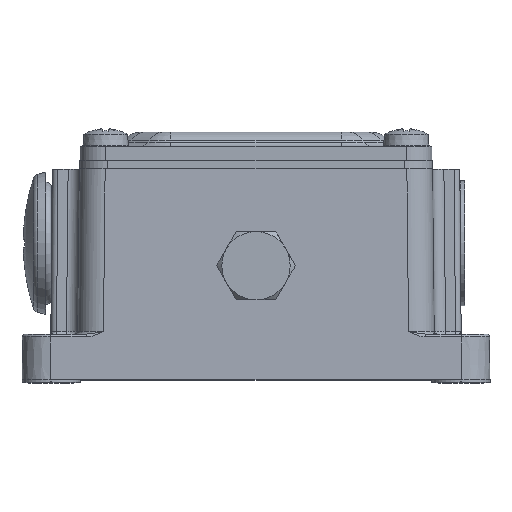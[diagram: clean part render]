
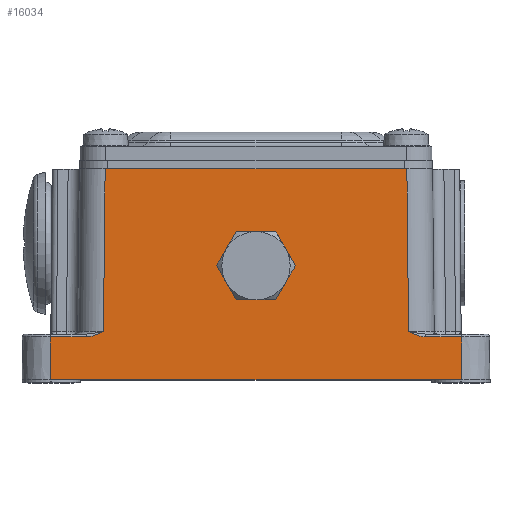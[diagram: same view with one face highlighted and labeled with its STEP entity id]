
A CAD part, top view. The second image highlights one B-rep face of the part: STEP entity #16034.
In plain terms, the highlighted planar face has unit normal (0, 0.003, 1).
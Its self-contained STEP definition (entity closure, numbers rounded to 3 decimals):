
#2199=DIRECTION('',(1.,0.,0.));
#2200=VECTOR('',#2199,71.8);
#2201=CARTESIAN_POINT('',(-35.9,0.,56.));
#2202=LINE('',#2201,#2200);
#4509=DIRECTION('',(1.,0.,0.));
#4510=VECTOR('',#4509,6.309);
#4511=CARTESIAN_POINT('',(-36.1,7.501,55.98));
#4512=LINE('',#4511,#4510);
#4524=CARTESIAN_POINT('',(-29.791,7.501,55.98));
#4525=CARTESIAN_POINT('',(-29.67,7.501,55.98));
#4526=CARTESIAN_POINT('',(-29.42,7.517,55.98));
#4527=CARTESIAN_POINT('',(-29.014,7.588,55.979));
#4528=CARTESIAN_POINT('',(-28.596,7.704,55.979));
#4529=CARTESIAN_POINT('',(-28.2,7.846,55.979));
#4530=CARTESIAN_POINT('',(-27.849,7.992,55.978));
#4531=CARTESIAN_POINT('',(-27.533,8.136,55.978));
#4532=CARTESIAN_POINT('',(-27.252,8.271,55.978));
#4533=CARTESIAN_POINT('',(-27.004,8.394,55.977));
#4534=CARTESIAN_POINT('',(-26.861,8.466,55.977));
#4535=CARTESIAN_POINT('',(-26.795,8.499,55.977));
#4564=CARTESIAN_POINT('',(0.,14.55,55.961));
#4565=CARTESIAN_POINT('',(-0.642,14.55,
55.961));
#4566=CARTESIAN_POINT('',(-2.03,14.782,55.96));
#4567=CARTESIAN_POINT('',(-3.969,16.032,55.957));
#4568=CARTESIAN_POINT('',(-5.009,17.644,55.952));
#4569=CARTESIAN_POINT('',(-5.393,19.016,55.949));
#4570=CARTESIAN_POINT('',(-5.479,20.,55.946));
#4571=CARTESIAN_POINT('',(-5.393,20.985,55.943));
#4572=CARTESIAN_POINT('',(-5.009,22.356,55.94));
#4573=CARTESIAN_POINT('',(-3.969,23.968,55.935));
#4574=CARTESIAN_POINT('',(-2.03,25.218,55.932));
#4575=CARTESIAN_POINT('',(-0.642,25.451,
55.931));
#4576=CARTESIAN_POINT('',(0.,25.451,55.931));
#4581=CARTESIAN_POINT('',(0.,25.451,55.931));
#4582=CARTESIAN_POINT('',(0.642,25.451,55.931));
#4583=CARTESIAN_POINT('',(2.03,25.218,55.932));
#4584=CARTESIAN_POINT('',(3.969,23.968,55.935));
#4585=CARTESIAN_POINT('',(5.009,22.356,55.94));
#4586=CARTESIAN_POINT('',(5.393,20.985,55.943));
#4587=CARTESIAN_POINT('',(5.479,20.,55.946));
#4588=CARTESIAN_POINT('',(5.393,19.016,55.949));
#4589=CARTESIAN_POINT('',(5.009,17.644,55.952));
#4590=CARTESIAN_POINT('',(3.969,16.032,55.957));
#4591=CARTESIAN_POINT('',(2.03,14.782,55.96));
#4592=CARTESIAN_POINT('',(0.642,14.55,55.961));
#4593=CARTESIAN_POINT('',(0.,14.55,55.961));
#4598=DIRECTION('',(1.,0.,0.));
#4599=VECTOR('',#4598,53.);
#4600=CARTESIAN_POINT('',(-26.5,37.,55.9));
#4601=LINE('',#4600,#4599);
#4605=DIRECTION('',(1.,0.,0.));
#4606=VECTOR('',#4605,0.2);
#4607=CARTESIAN_POINT('',(35.9,0.,56.));
#4608=LINE('',#4607,#4606);
#4612=DIRECTION('',(1.,0.,0.));
#4613=VECTOR('',#4612,0.2);
#4614=CARTESIAN_POINT('',(-36.1,0.,56.));
#4615=LINE('',#4614,#4613);
#8333=DIRECTION('',(0.01,1.,-0.003));
#8334=VECTOR('',#8333,28.503);
#8335=CARTESIAN_POINT('',(-26.795,8.499,55.977));
#8336=LINE('',#8335,#8334);
#8417=DIRECTION('',(0.01,-1.,0.003));
#8418=VECTOR('',#8417,28.503);
#8419=CARTESIAN_POINT('',(26.5,37.,55.9));
#8420=LINE('',#8419,#8418);
#8480=CARTESIAN_POINT('',(26.795,8.499,55.977));
#8496=CARTESIAN_POINT('',(26.795,8.499,55.977));
#8497=CARTESIAN_POINT('',(26.869,8.461,55.977));
#8498=CARTESIAN_POINT('',(27.024,8.384,55.977));
#8499=CARTESIAN_POINT('',(27.277,8.259,55.978));
#8500=CARTESIAN_POINT('',(27.555,8.126,55.978));
#8501=CARTESIAN_POINT('',(27.861,7.987,55.978));
#8502=CARTESIAN_POINT('',(28.199,7.847,55.979));
#8503=CARTESIAN_POINT('',(28.581,7.709,55.979));
#8504=CARTESIAN_POINT('',(28.997,7.592,55.979));
#8505=CARTESIAN_POINT('',(29.416,7.517,55.98));
#8506=CARTESIAN_POINT('',(29.669,7.501,55.98));
#8507=CARTESIAN_POINT('',(29.791,7.501,55.98));
#8519=DIRECTION('',(1.,0.,0.));
#8520=VECTOR('',#8519,6.309);
#8521=CARTESIAN_POINT('',(29.791,7.501,55.98));
#8522=LINE('',#8521,#8520);
#8743=DIRECTION('',(0.,1.,-0.003));
#8744=VECTOR('',#8743,7.501);
#8745=CARTESIAN_POINT('',(36.1,0.,56.));
#8746=LINE('',#8745,#8744);
#9535=DIRECTION('',(0.,1.,-0.003));
#9536=VECTOR('',#9535,7.501);
#9537=CARTESIAN_POINT('',(-36.1,0.,56.));
#9538=LINE('',#9537,#9536);
#11005=CARTESIAN_POINT('',(-36.1,0.,56.));
#11006=VERTEX_POINT('',#11005);
#11007=CARTESIAN_POINT('',(-35.9,0.,56.));
#11008=VERTEX_POINT('',#11007);
#11029=CARTESIAN_POINT('',(35.9,0.,56.));
#11030=VERTEX_POINT('',#11029);
#11031=CARTESIAN_POINT('',(36.1,0.,56.));
#11032=VERTEX_POINT('',#11031);
#11113=CARTESIAN_POINT('',(-26.5,37.,55.9));
#11114=CARTESIAN_POINT('',(26.5,37.,55.9));
#11115=VERTEX_POINT('',#11113);
#11116=VERTEX_POINT('',#11114);
#11453=VERTEX_POINT('',#4564);
#11454=VERTEX_POINT('',#4576);
#11711=CARTESIAN_POINT('',(-36.1,7.501,55.98));
#11712=CARTESIAN_POINT('',(-29.791,7.501,
55.98));
#11713=VERTEX_POINT('',#11711);
#11714=VERTEX_POINT('',#11712);
#11768=CARTESIAN_POINT('',(36.1,7.501,55.98));
#11769=VERTEX_POINT('',#11768);
#11772=CARTESIAN_POINT('',(29.791,7.501,55.98));
#11773=VERTEX_POINT('',#11772);
#11774=VERTEX_POINT('',#8480);
#11777=CARTESIAN_POINT('',(-26.795,8.499,
55.977));
#11778=VERTEX_POINT('',#11777);
#16001=CARTESIAN_POINT('',(37.659,0.,56.));
#16002=DIRECTION('',(0.,-0.003,-1.));
#16003=DIRECTION('',(0.,1.,-0.003));
#16004=AXIS2_PLACEMENT_3D('',#16001,#16002,#16003);
#16005=PLANE('',#16004);
#16006=ORIENTED_EDGE('',*,*,#15934,.T.);
#16007=ORIENTED_EDGE('',*,*,#15993,.T.);
#16009=ORIENTED_EDGE('',*,*,#16008,.T.);
#16010=ORIENTED_EDGE('',*,*,#12396,.T.);
#16012=ORIENTED_EDGE('',*,*,#16011,.T.);
#16014=ORIENTED_EDGE('',*,*,#16013,.T.);
#16016=ORIENTED_EDGE('',*,*,#16015,.T.);
#16018=ORIENTED_EDGE('',*,*,#16017,.F.);
#16020=ORIENTED_EDGE('',*,*,#16019,.F.);
#16021=ORIENTED_EDGE('',*,*,#13499,.F.);
#16023=ORIENTED_EDGE('',*,*,#16022,.F.);
#16025=ORIENTED_EDGE('',*,*,#16024,.T.);
#16026=EDGE_LOOP('',(#16006,#16007,#16009,#16010,#16012,#16014,#16016,#16018,
#16020,#16021,#16023,#16025));
#16027=FACE_OUTER_BOUND('',#16026,.F.);
#16029=ORIENTED_EDGE('',*,*,#16028,.F.);
#16031=ORIENTED_EDGE('',*,*,#16030,.F.);
#16032=EDGE_LOOP('',(#16029,#16031));
#16033=FACE_BOUND('',#16032,.F.);
#16034=ADVANCED_FACE('',(#16027,#16033),#16005,.F.);
#4536=B_SPLINE_CURVE_WITH_KNOTS('',3,(#4524,#4525,#4526,#4527,#4528,#4529,#4530,
#4531,#4532,#4533,#4534,#4535),.UNSPECIFIED.,.F.,.F.,(4,1,1,1,1,1,1,1,1,4),
(0.,0.111,0.222,0.333,0.444,
0.556,0.667,0.778,0.889,1.),
.UNSPECIFIED.);
#4577=B_SPLINE_CURVE_WITH_KNOTS('',3,(#4564,#4565,#4566,#4567,#4568,#4569,#4570,
#4571,#4572,#4573,#4574,#4575,#4576),.UNSPECIFIED.,.F.,.F.,(4,1,1,1,1,1,1,1,1,1,
4),(0.,0.125,0.25,0.375,0.438,0.5,0.563,0.625,0.75,0.875,
1.),.UNSPECIFIED.);
#4594=B_SPLINE_CURVE_WITH_KNOTS('',3,(#4581,#4582,#4583,#4584,#4585,#4586,#4587,
#4588,#4589,#4590,#4591,#4592,#4593),.UNSPECIFIED.,.F.,.F.,(4,1,1,1,1,1,1,1,1,1,
4),(0.,0.125,0.25,0.375,0.438,0.5,0.563,0.625,0.75,0.875,
1.),.UNSPECIFIED.);
#8508=B_SPLINE_CURVE_WITH_KNOTS('',3,(#8496,#8497,#8498,#8499,#8500,#8501,#8502,
#8503,#8504,#8505,#8506,#8507),.UNSPECIFIED.,.F.,.F.,(4,1,1,1,1,1,1,1,1,4),
(0.,0.111,0.222,0.333,0.444,
0.556,0.667,0.778,0.889,1.),
.UNSPECIFIED.);
#12396=EDGE_CURVE('',#11115,#11116,#4601,.T.);
#13499=EDGE_CURVE('',#11008,#11030,#2202,.T.);
#15934=EDGE_CURVE('',#11713,#11714,#4512,.T.);
#15993=EDGE_CURVE('',#11714,#11778,#4536,.T.);
#16008=EDGE_CURVE('',#11778,#11115,#8336,.T.);
#16011=EDGE_CURVE('',#11116,#11774,#8420,.T.);
#16013=EDGE_CURVE('',#11774,#11773,#8508,.T.);
#16015=EDGE_CURVE('',#11773,#11769,#8522,.T.);
#16017=EDGE_CURVE('',#11032,#11769,#8746,.T.);
#16019=EDGE_CURVE('',#11030,#11032,#4608,.T.);
#16022=EDGE_CURVE('',#11006,#11008,#4615,.T.);
#16024=EDGE_CURVE('',#11006,#11713,#9538,.T.);
#16028=EDGE_CURVE('',#11453,#11454,#4577,.T.);
#16030=EDGE_CURVE('',#11454,#11453,#4594,.T.);
